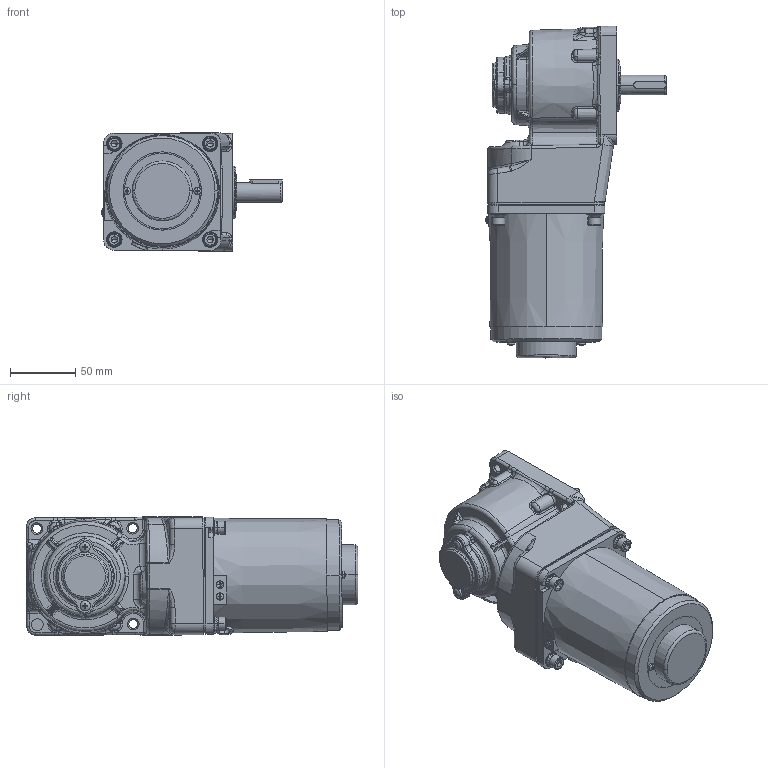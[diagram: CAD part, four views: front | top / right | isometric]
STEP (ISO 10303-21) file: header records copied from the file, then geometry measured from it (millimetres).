
FILE_DESCRIPTION (( 'STEP AP203' ), '1' );
FILE_NAME ('5IK40RGU-C(5GU3RT-180RT)ÐÂ.STEP', '2022-02-24T00:29:43', ( 'PC' ), ( 'Microsoft' ), 'SwSTEP 2.0', 'SolidWorks 2014', '' );
FILE_SCHEMA (( 'CONFIG_CONTROL_DESIGN' ));
Length unit declared in the file: millimetre
Products named in the file (9): 90RT妗陑怀堤傷裔; ZD-5GU50RC-505-003綴傷裔; hexagon socket head cap screws gb_GB_FASTENER_SCREWS_HSHCS M5X12-N; cross recessed pan head screws gb_GB_CROSS_SCREWS_TYPE1 M4X6-6  H type-N; 5IK40RGU-C(5GU3RC-180RC); 5IK40RGU-C(5GU3RT-180RT)陔; zd-5gu-50rc-504-001m#眊极禱矗 2021-12-07 - 萵掛; 90妗陑怀堤粣; 90壔裔
Assembly tree (12 placements, depth 2):
  5IK40RGU-C(5GU3RT-180RT)陔
    zd-5gu-50rc-504-001m#眊极禱矗 2021-12-07 - 萵掛
    90妗陑怀堤粣
    90壔裔
    ZD-5GU50RC-505-003綴傷裔
    90RT妗陑怀堤傷裔
    hexagon socket head cap screws gb_GB_FASTENER_SCREWS_HSHCS M5X12-N  x4
    cross recessed pan head screws gb_GB_CROSS_SCREWS_TYPE1 M4X6-6  H type-N  x2
    5IK40RGU-C(5GU3RC-180RC)
Bounding box: 138.35 x 254.56 x 91.08 mm (x, y, z)
Volume: 814796.4 mm3; surface area: 178861.9 mm2
Topology: 25 solids, 35 shells, 1931 faces, 4722 edges, 2810 vertices
Faces by surface type: plane 576, bspline 461, cone 408, cylinder 389, torus 91, sphere 6
Entity records: 79963 total; most frequent: CARTESIAN_POINT 39964, ORIENTED_EDGE 8756, DIRECTION 7320, EDGE_CURVE 4379, AXIS2_PLACEMENT_3D 2921, VERTEX_POINT 2670, EDGE_LOOP 1932, FACE_OUTER_BOUND 1832
